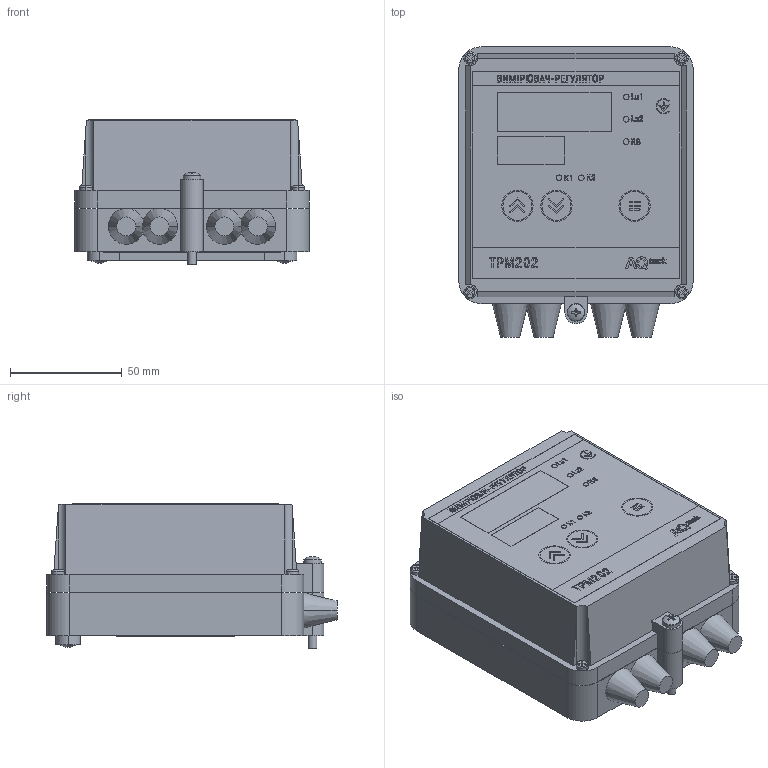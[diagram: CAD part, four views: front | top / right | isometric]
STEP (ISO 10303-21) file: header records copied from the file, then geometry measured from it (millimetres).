
FILE_DESCRIPTION (( 'STEP AP214' ), '1' );
FILE_NAME ('ﾒﾐﾌ202-ﾍ.ﾐﾐ [U03].STEP', '2025-01-17T11:17:50', ( '' ), ( '' ), 'SwSTEP 2.0', 'SolidWorks 2019', '' );
FILE_SCHEMA (( 'AUTOMOTIVE_DESIGN' ));
Length unit declared in the file: millimetre
Products named in the file (6): ﾒﾐﾌ202-ﾍ.ﾐﾐ [U03]; Êîðïóñ ÒÐÌ202-Í; M4 x 0.7 x 40 Type I Cross Recessed PHMS; B18.6.7M - M4 x 0.7 x 40 Type I Cross Recessed PHMS --40N^ﾒﾐﾌ1-ﾍ.ﾓ.ﾐ [U01]; Êð³ïëåííÿ; AQ_TRM202_001F01M
Assembly tree (6 placements, depth 2):
  ﾒﾐﾌ202-ﾍ.ﾐﾐ [U03]
    M4 x 0.7 x 40 Type I Cross Recessed PHMS  x2
    B18.6.7M - M4 x 0.7 x 40 Type I Cross Recessed PHMS --40N^ﾒﾐﾌ1-ﾍ.ﾓ.ﾐ [U01]
    AQ_TRM202_001F01M
    Êîðïóñ ÒÐÌ202-Í
    Êð³ïëåííÿ
Bounding box: 105 x 130 x 64.62 mm (x, y, z)
Volume: 666263.2 mm3; surface area: 110460.2 mm2
Topology: 295 solids, 295 shells, 4506 faces, 11674 edges, 7768 vertices
Faces by surface type: plane 3065, bspline 1293, cylinder 126, torus 11, cone 8, sphere 3
Full cylindrical faces by diameter (mm): 1.274 x2, 2.5 x10, 3.268 x4, 4 x3, 8 x3, 13 x6, 14 x3
Entity records: 193729 total; most frequent: CARTESIAN_POINT 40826, ORIENTED_EDGE 23202, DIRECTION 15701, EDGE_CURVE 11601, VECTOR 8675, LINE 8675, VERTEX_POINT 7744, EDGE_LOOP 4813
